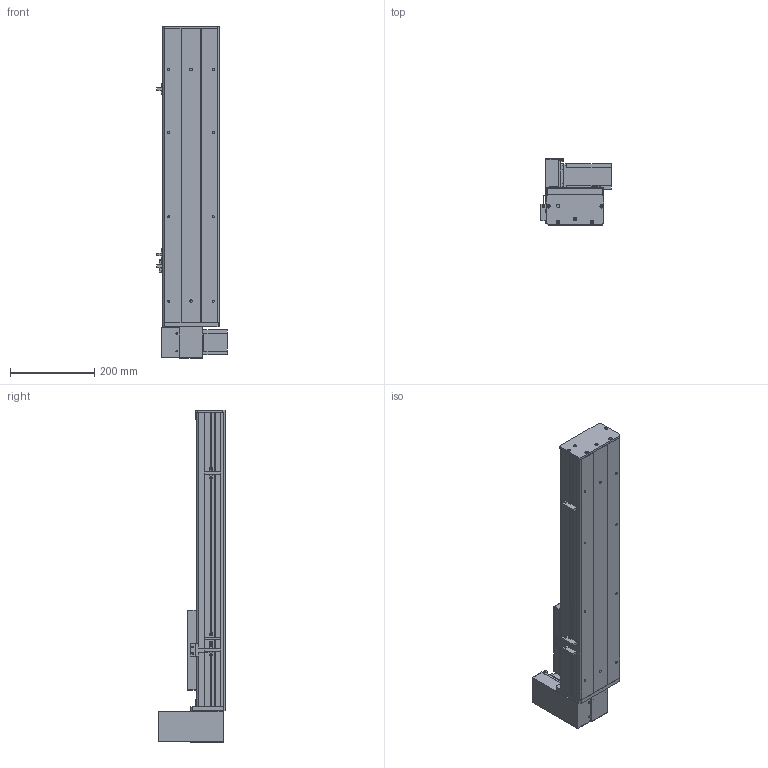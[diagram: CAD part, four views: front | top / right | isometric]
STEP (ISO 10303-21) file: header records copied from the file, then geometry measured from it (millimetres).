
FILE_DESCRIPTION (( 'STEP AP203' ), '1' );
FILE_NAME ('Y135CB-D90-S400-UR-P400W.STEP', '2020-02-18T03:33:26', ( '微软用户' ), ( '微软中国' ), 'SwSTEP 2.0', 'SolidWorks 2017', '' );
FILE_SCHEMA (( 'CONFIG_CONTROL_DESIGN' ));
Length unit declared in the file: millimetre
Products named in the file (18): Y100-135俋离換覜ん--; 0B-源倛裔啣; Y135C-陔俋离換覜結え-; 0B-萇儂楊擘啣; 5C--俋欶; san松下电机400不带刹车----; C-雄赽釱--; 5CB --掛极耜裔啣-; Y10B--々湍喘謫眊--666; C-詩湍揤踡え-陔; Y135CB-耜裔; Y10B-耜蚾蟀諉啣----; 135CB--詩湍-CE; 135CB---遴掛极.-; 00B-俋欶BM--; 35CB---喘謫眊楊擘啣; Y135CB-D90-S400-UR-P400W; 0B-埴倛裔啣
Assembly tree (21 placements, depth 2):
  Y135CB-D90-S400-UR-P400W
    Y135CB-耜裔
    135CB---遴掛极.-
    35CB---喘謫眊楊擘啣
    0B-埴倛裔啣
    0B-源倛裔啣
    0B-萇儂楊擘啣
    san松下电机400不带刹车----
    5CB --掛极耜裔啣-  x2
    C-詩湍揤踡え-陔  x2
    135CB--詩湍-CE
    Y100-135俋离換覜ん--  x3
    Y135C-陔俋离換覜結え-
    5C--俋欶
    C-雄赽釱--
    Y10B--々湍喘謫眊--666
    Y10B-耜蚾蟀諉啣----
    00B-俋欶BM--
Bounding box: 167.5 x 158.7 x 788 mm (x, y, z)
Volume: 2828305.9 mm3; surface area: 1090706.6 mm2
Topology: 21 solids, 21 shells, 933 faces, 2473 edges, 1638 vertices
Faces by surface type: cylinder 461, plane 456, cone 16
Entity records: 28743 total; most frequent: DIRECTION 4773, CARTESIAN_POINT 4680, ORIENTED_EDGE 4422, EDGE_CURVE 2211, AXIS2_PLACEMENT_3D 1735, VERTEX_POINT 1466, LINE 1303, VECTOR 1303
